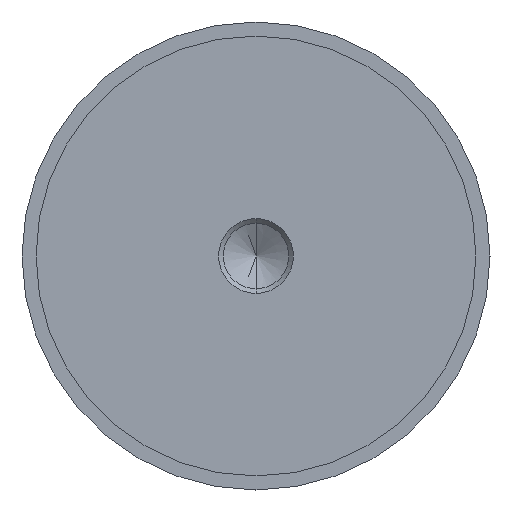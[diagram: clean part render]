
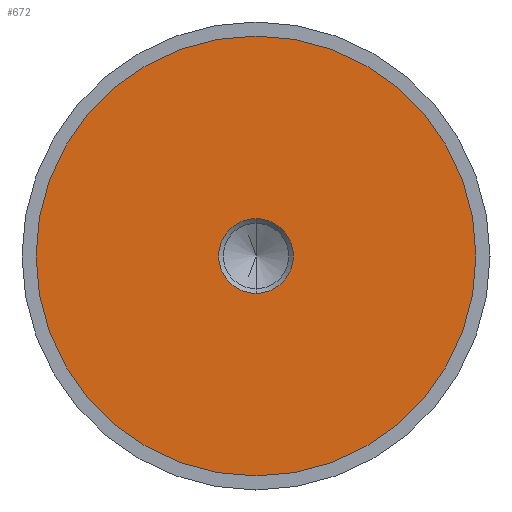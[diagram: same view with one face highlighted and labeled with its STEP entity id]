
A CAD part, left-side view. The second image highlights one B-rep face of the part: STEP entity #672.
In plain terms, the highlighted planar face has unit normal (-1, 0, 0).
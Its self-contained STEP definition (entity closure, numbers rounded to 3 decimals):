
#7 = CIRCLE ( 'NONE', #502, 47. ) ;
#29 = CARTESIAN_POINT ( 'NONE',  ( -27.49, 0., -7.99 ) ) ;
#32 = DIRECTION ( 'NONE',  ( 0., 0., -1. ) ) ;
#55 = AXIS2_PLACEMENT_3D ( 'NONE', #517, #644, #653 ) ;
#196 = VERTEX_POINT ( 'NONE', #648 ) ;
#228 = EDGE_LOOP ( 'NONE', ( #258, #286 ) ) ;
#231 = VERTEX_POINT ( 'NONE', #737 ) ;
#234 = PLANE ( 'NONE',  #327 ) ;
#239 = AXIS2_PLACEMENT_3D ( 'NONE', #383, #308, #32 ) ;
#251 = CARTESIAN_POINT ( 'NONE',  ( -27.49, 0., 0. ) ) ;
#258 = ORIENTED_EDGE ( 'NONE', *, *, #559, .T. ) ;
#264 = CARTESIAN_POINT ( 'NONE',  ( -27.49, 0., -47. ) ) ;
#286 = ORIENTED_EDGE ( 'NONE', *, *, #510, .T. ) ;
#307 = VERTEX_POINT ( 'NONE', #264 ) ;
#308 = DIRECTION ( 'NONE',  ( 1., 0., 0. ) ) ;
#327 = AXIS2_PLACEMENT_3D ( 'NONE', #377, #564, #504 ) ;
#363 = FACE_BOUND ( 'NONE', #228, .T. ) ;
#370 = DIRECTION ( 'NONE',  ( 0., 0., 1. ) ) ;
#377 = CARTESIAN_POINT ( 'NONE',  ( -27.49, 47., 0. ) ) ;
#383 = CARTESIAN_POINT ( 'NONE',  ( -27.49, 0., 0. ) ) ;
#397 = CIRCLE ( 'NONE', #625, 47. ) ;
#421 = EDGE_LOOP ( 'NONE', ( #551, #442 ) ) ;
#442 = ORIENTED_EDGE ( 'NONE', *, *, #740, .T. ) ;
#479 = CIRCLE ( 'NONE', #55, 7.99 ) ;
#502 = AXIS2_PLACEMENT_3D ( 'NONE', #251, #867, #654 ) ;
#504 = DIRECTION ( 'NONE',  ( 0., 0., -1. ) ) ;
#510 = EDGE_CURVE ( 'NONE', #652, #196, #479, .T. ) ;
#517 = CARTESIAN_POINT ( 'NONE',  ( -27.49, 0., 0. ) ) ;
#551 = ORIENTED_EDGE ( 'NONE', *, *, #810, .T. ) ;
#559 = EDGE_CURVE ( 'NONE', #196, #652, #743, .T. ) ;
#564 = DIRECTION ( 'NONE',  ( 1., 0., 0. ) ) ;
#569 = CARTESIAN_POINT ( 'NONE',  ( -27.49, 0., 0. ) ) ;
#625 = AXIS2_PLACEMENT_3D ( 'NONE', #569, #846, #370 ) ;
#644 = DIRECTION ( 'NONE',  ( 1., 0., 0. ) ) ;
#648 = CARTESIAN_POINT ( 'NONE',  ( -27.49, 0., 7.99 ) ) ;
#652 = VERTEX_POINT ( 'NONE', #29 ) ;
#653 = DIRECTION ( 'NONE',  ( 0., 0., -1. ) ) ;
#654 = DIRECTION ( 'NONE',  ( 0., 0., 1. ) ) ;
#672 = ADVANCED_FACE ( 'NONE', ( #363, #788 ), #234, .F. ) ;
#737 = CARTESIAN_POINT ( 'NONE',  ( -27.49, 0., 47. ) ) ;
#740 = EDGE_CURVE ( 'NONE', #307, #231, #397, .T. ) ;
#743 = CIRCLE ( 'NONE', #239, 7.99 ) ;
#788 = FACE_OUTER_BOUND ( 'NONE', #421, .T. ) ;
#810 = EDGE_CURVE ( 'NONE', #231, #307, #7, .T. ) ;
#846 = DIRECTION ( 'NONE',  ( -1., 0., 0. ) ) ;
#867 = DIRECTION ( 'NONE',  ( -1., 0., 0. ) ) ;
